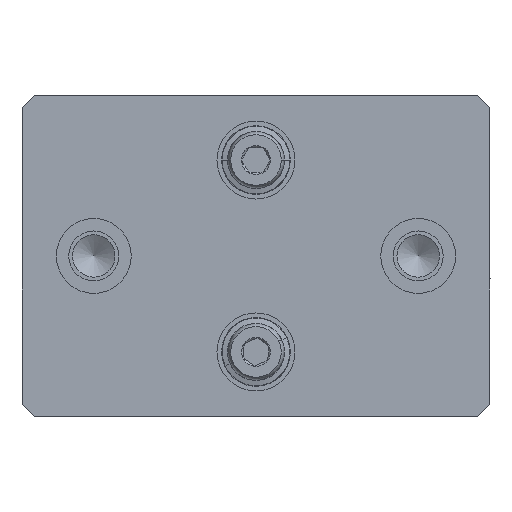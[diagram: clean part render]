
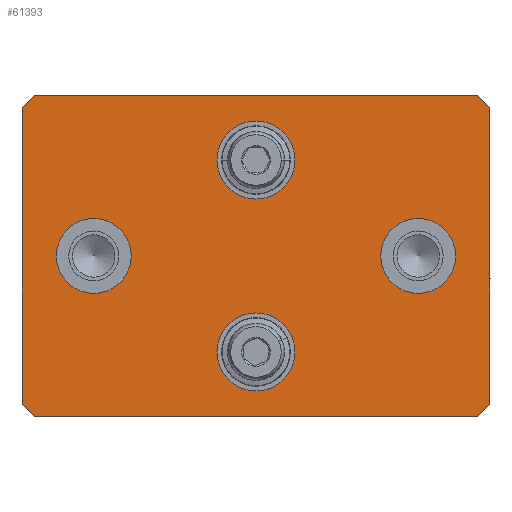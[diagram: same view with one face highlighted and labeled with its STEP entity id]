
A CAD part, left-side view. The second image highlights one B-rep face of the part: STEP entity #61393.
In plain terms, the highlighted planar face has unit normal (-1, 0, 0).
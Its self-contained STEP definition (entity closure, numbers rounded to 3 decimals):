
#2517 = EDGE_CURVE ( 'NONE', #35745, #28118, #95881, .T. ) ;
#3765 = PLANE ( 'NONE',  #34207 ) ;
#3882 = LINE ( 'NONE', #98960, #54553 ) ;
#4698 = VERTEX_POINT ( 'NONE', #70682 ) ;
#4812 = VECTOR ( 'NONE', #72125, 1000. ) ;
#5441 = LINE ( 'NONE', #84680, #7597 ) ;
#6153 = VECTOR ( 'NONE', #27963, 1000. ) ;
#7538 = EDGE_CURVE ( 'NONE', #99438, #53798, #11784, .T. ) ;
#7597 = VECTOR ( 'NONE', #85191, 1000. ) ;
#9233 = EDGE_CURVE ( 'NONE', #58097, #58097, #55238, .T. ) ;
#9707 = AXIS2_PLACEMENT_3D ( 'NONE', #37873, #38941, #86932 ) ;
#11502 = EDGE_CURVE ( 'NONE', #25296, #28118, #3882, .T. ) ;
#11784 = LINE ( 'NONE', #29176, #65081 ) ;
#12532 = ORIENTED_EDGE ( 'NONE', *, *, #7538, .F. ) ;
#12683 = EDGE_LOOP ( 'NONE', ( #37378 ) ) ;
#12997 = ORIENTED_EDGE ( 'NONE', *, *, #87999, .T. ) ;
#13233 = CARTESIAN_POINT ( 'NONE',  ( 0., 0., 0. ) ) ;
#13593 = ORIENTED_EDGE ( 'NONE', *, *, #9233, .F. ) ;
#13830 = EDGE_CURVE ( 'NONE', #25296, #75192, #5441, .T. ) ;
#15175 = CARTESIAN_POINT ( 'NONE',  ( 0., 37.5, 23.75 ) ) ;
#16356 = ORIENTED_EDGE ( 'NONE', *, *, #13830, .F. ) ;
#16845 = CIRCLE ( 'NONE', #102841, 6. ) ;
#17595 = CARTESIAN_POINT ( 'NONE',  ( 0., -35.5, 25.75 ) ) ;
#19335 = DIRECTION ( 'NONE',  ( 0., 0., -1. ) ) ;
#19581 = ORIENTED_EDGE ( 'NONE', *, *, #88108, .T. ) ;
#20559 = CARTESIAN_POINT ( 'NONE',  ( 0., 0., 21.626 ) ) ;
#25098 = VECTOR ( 'NONE', #79018, 1000. ) ;
#25265 = DIRECTION ( 'NONE',  ( -1., 0., 0. ) ) ;
#25296 = VERTEX_POINT ( 'NONE', #97767 ) ;
#26763 = CARTESIAN_POINT ( 'NONE',  ( 0., -26., 0. ) ) ;
#27963 = DIRECTION ( 'NONE',  ( 0., -1., 0. ) ) ;
#28118 = VERTEX_POINT ( 'NONE', #47030 ) ;
#28144 = DIRECTION ( 'NONE',  ( 0., 0.707, -0.707 ) ) ;
#28493 = VERTEX_POINT ( 'NONE', #20559 ) ;
#29176 = CARTESIAN_POINT ( 'NONE',  ( 0., 37.5, 25.75 ) ) ;
#30658 = EDGE_LOOP ( 'NONE', ( #13593 ) ) ;
#31017 = CIRCLE ( 'NONE', #89352, 6. ) ;
#34207 = AXIS2_PLACEMENT_3D ( 'NONE', #13233, #45475, #35979 ) ;
#35745 = VERTEX_POINT ( 'NONE', #88468 ) ;
#35979 = DIRECTION ( 'NONE',  ( 0., 0., -1. ) ) ;
#37378 = ORIENTED_EDGE ( 'NONE', *, *, #63593, .F. ) ;
#37873 = CARTESIAN_POINT ( 'NONE',  ( 0., 0., -15.376 ) ) ;
#38941 = DIRECTION ( 'NONE',  ( -1., 0., 0. ) ) ;
#41041 = CARTESIAN_POINT ( 'NONE',  ( 0., 35.5, 25.75 ) ) ;
#43411 = FACE_BOUND ( 'NONE', #91461, .T. ) ;
#44029 = DIRECTION ( 'NONE',  ( 0., 0., 1. ) ) ;
#45475 = DIRECTION ( 'NONE',  ( 1., 0., 0. ) ) ;
#47030 = CARTESIAN_POINT ( 'NONE',  ( 0., -37.5, -23.75 ) ) ;
#47902 = CARTESIAN_POINT ( 'NONE',  ( 0., 37.5, -23.75 ) ) ;
#49457 = DIRECTION ( 'NONE',  ( 0., 0.707, 0.707 ) ) ;
#49460 = LINE ( 'NONE', #41041, #73473 ) ;
#49968 = LINE ( 'NONE', #73700, #62210 ) ;
#51161 = ORIENTED_EDGE ( 'NONE', *, *, #11502, .T. ) ;
#51318 = VERTEX_POINT ( 'NONE', #17595 ) ;
#51640 = CARTESIAN_POINT ( 'NONE',  ( 0., 26., 0. ) ) ;
#51644 = ORIENTED_EDGE ( 'NONE', *, *, #84525, .F. ) ;
#52155 = EDGE_LOOP ( 'NONE', ( #53186 ) ) ;
#52763 = CARTESIAN_POINT ( 'NONE',  ( 0., 37.5, 25.75 ) ) ;
#53186 = ORIENTED_EDGE ( 'NONE', *, *, #66025, .F. ) ;
#53798 = VERTEX_POINT ( 'NONE', #15175 ) ;
#54553 = VECTOR ( 'NONE', #92589, 1000. ) ;
#55238 = CIRCLE ( 'NONE', #9707, 6.25 ) ;
#55683 = AXIS2_PLACEMENT_3D ( 'NONE', #72308, #104497, #75417 ) ;
#56289 = CARTESIAN_POINT ( 'NONE',  ( 0., -37.5, 25.75 ) ) ;
#56795 = CARTESIAN_POINT ( 'NONE',  ( 0., 35.5, 25.75 ) ) ;
#58097 = VERTEX_POINT ( 'NONE', #82363 ) ;
#61393 = ADVANCED_FACE ( 'NONE', ( #43411, #85555, #75573, #76094, #92467 ), #3765, .F. ) ;
#62210 = VECTOR ( 'NONE', #49457, 1000. ) ;
#63593 = EDGE_CURVE ( 'NONE', #4698, #4698, #31017, .T. ) ;
#65081 = VECTOR ( 'NONE', #44029, 1000. ) ;
#66025 = EDGE_CURVE ( 'NONE', #78074, #78074, #16845, .T. ) ;
#66424 = DIRECTION ( 'NONE',  ( 0., 0., 1. ) ) ;
#66866 = DIRECTION ( 'NONE',  ( -1., 0., 0. ) ) ;
#68586 = LINE ( 'NONE', #52763, #6153 ) ;
#70682 = CARTESIAN_POINT ( 'NONE',  ( 0., 26., 6. ) ) ;
#71048 = CARTESIAN_POINT ( 'NONE',  ( 0., 37.5, -23.75 ) ) ;
#71632 = LINE ( 'NONE', #47902, #25098 ) ;
#72125 = DIRECTION ( 'NONE',  ( 0., 0., -1. ) ) ;
#72308 = CARTESIAN_POINT ( 'NONE',  ( 0., 0., 15.376 ) ) ;
#73473 = VECTOR ( 'NONE', #28144, 1000. ) ;
#73528 = ORIENTED_EDGE ( 'NONE', *, *, #92817, .F. ) ;
#73700 = CARTESIAN_POINT ( 'NONE',  ( 0., -37.5, 23.75 ) ) ;
#75192 = VERTEX_POINT ( 'NONE', #77258 ) ;
#75417 = DIRECTION ( 'NONE',  ( 0., 0., 1. ) ) ;
#75573 = FACE_BOUND ( 'NONE', #12683, .T. ) ;
#76094 = FACE_BOUND ( 'NONE', #52155, .T. ) ;
#77258 = CARTESIAN_POINT ( 'NONE',  ( 0., 35.5, -25.75 ) ) ;
#78074 = VERTEX_POINT ( 'NONE', #85471 ) ;
#78088 = ORIENTED_EDGE ( 'NONE', *, *, #83418, .T. ) ;
#79018 = DIRECTION ( 'NONE',  ( 0., -0.707, -0.707 ) ) ;
#79748 = ORIENTED_EDGE ( 'NONE', *, *, #2517, .F. ) ;
#82363 = CARTESIAN_POINT ( 'NONE',  ( 0., 0., -9.126 ) ) ;
#83418 = EDGE_CURVE ( 'NONE', #104154, #53798, #49460, .T. ) ;
#84525 = EDGE_CURVE ( 'NONE', #104154, #51318, #68586, .T. ) ;
#84680 = CARTESIAN_POINT ( 'NONE',  ( 0., 37.5, -25.75 ) ) ;
#85191 = DIRECTION ( 'NONE',  ( 0., 1., 0. ) ) ;
#85471 = CARTESIAN_POINT ( 'NONE',  ( 0., -26., -6. ) ) ;
#85555 = FACE_BOUND ( 'NONE', #30658, .T. ) ;
#86932 = DIRECTION ( 'NONE',  ( 0., 0., 1. ) ) ;
#87999 = EDGE_CURVE ( 'NONE', #99438, #75192, #71632, .T. ) ;
#88108 = EDGE_CURVE ( 'NONE', #35745, #51318, #49968, .T. ) ;
#88468 = CARTESIAN_POINT ( 'NONE',  ( 0., -37.5, 23.75 ) ) ;
#89352 = AXIS2_PLACEMENT_3D ( 'NONE', #51640, #25265, #66424 ) ;
#90281 = EDGE_LOOP ( 'NONE', ( #51644, #78088, #12532, #12997, #16356, #51161, #79748, #19581 ) ) ;
#91461 = EDGE_LOOP ( 'NONE', ( #73528 ) ) ;
#92467 = FACE_OUTER_BOUND ( 'NONE', #90281, .T. ) ;
#92589 = DIRECTION ( 'NONE',  ( 0., -0.707, 0.707 ) ) ;
#92817 = EDGE_CURVE ( 'NONE', #28493, #28493, #99546, .T. ) ;
#95881 = LINE ( 'NONE', #56289, #4812 ) ;
#97767 = CARTESIAN_POINT ( 'NONE',  ( 0., -35.5, -25.75 ) ) ;
#98960 = CARTESIAN_POINT ( 'NONE',  ( 0., -35.5, -25.75 ) ) ;
#99438 = VERTEX_POINT ( 'NONE', #71048 ) ;
#99546 = CIRCLE ( 'NONE', #55683, 6.25 ) ;
#102841 = AXIS2_PLACEMENT_3D ( 'NONE', #26763, #66866, #19335 ) ;
#104154 = VERTEX_POINT ( 'NONE', #56795 ) ;
#104497 = DIRECTION ( 'NONE',  ( -1., 0., 0. ) ) ;
